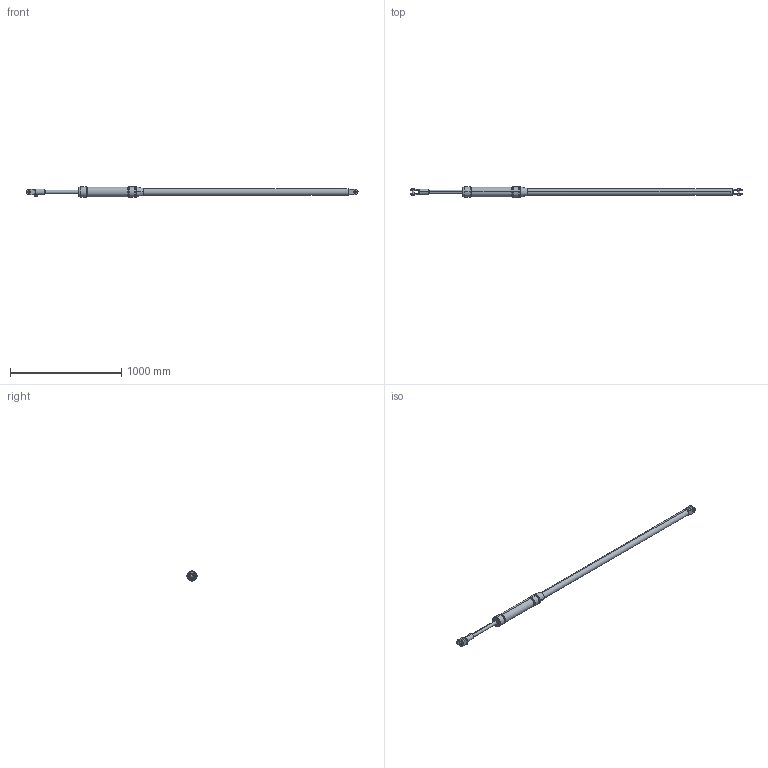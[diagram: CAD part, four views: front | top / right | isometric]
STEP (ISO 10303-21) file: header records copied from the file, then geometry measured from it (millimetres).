
FILE_DESCRIPTION (( 'STEP AP203' ), '1' );
FILE_NAME ('VNG_070.STEP', '2018-01-08T17:16:18', ( 'utente' ), ( '' ), 'SwSTEP 2.0', 'SolidWorks 2015', '' );
FILE_SCHEMA (( 'CONFIG_CONTROL_DESIGN' ));
Length unit declared in the file: millimetre
Products named in the file (1): VNG_070
Bounding box: 2986 x 91 x 91 mm (x, y, z)
Volume: 9457113.1 mm3; surface area: 608329.3 mm2
Topology: 1 solids, 1 shells, 239 faces, 574 edges, 350 vertices
Faces by surface type: plane 95, cylinder 71, cone 37, torus 36
Entity records: 7607 total; most frequent: CARTESIAN_POINT 1964, DIRECTION 1218, ORIENTED_EDGE 1148, EDGE_CURVE 574, AXIS2_PLACEMENT_3D 490, VERTEX_POINT 350, EDGE_LOOP 256, CIRCLE 250
